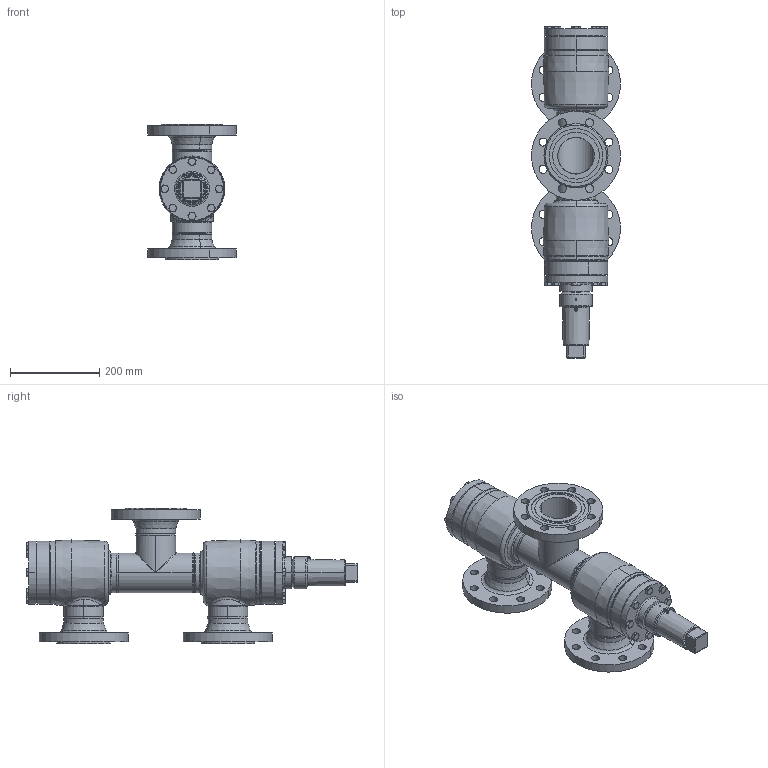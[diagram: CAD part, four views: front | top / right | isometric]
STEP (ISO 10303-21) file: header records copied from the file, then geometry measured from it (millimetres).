
FILE_DESCRIPTION (( 'STEP AP214' ), '1' );
FILE_NAME ('WVR24020D18-DN080_DIN-FL-N-F_PS40.STEP', '2010-09-08T09:01:10', ( 'Eckhard Grams' ), ( 'AWP Kälte Klima Armaturen GmbH' ), 'SwSTEP 2.0', 'SolidWorks 2002296', '' );
FILE_SCHEMA (( 'AUTOMOTIVE_DESIGN' ));
Length unit declared in the file: millimetre
Products named in the file (21): WVR24020D18-DN080_DIN-FL-N-F_PS40; WVB-R23000E18_Deck+Schr-DN80_Standard; Deckel23000E18-DN80_Standard; Kappe 16402-19_DN80-100 (M60x3)_Standard; Geh,kpl23020E18-DN080_DIN-FL-N-F_PS40_Standard; bead23020-18-3_Standard; bead23020-18-2_Standard; bead23020-18-1_Standard; Geh,kpl23000E18-DN080_R1_PS40_Standard; bead23000-18-2kopf_Standard; Kopfstück16300-DN080_Standard; bead23000-18-1kopf_Standard; bead23000-18-2_Standard; bead23000-18-1_Standard; Gehäuse23000E18-DN080_R1_PS40_Standard; T-Stück DIN2615_DN 80; Flansch-DIN2635-Nut_PS40_DIN-Flansch-DN080_PS40-Nut; Flansch-DIN2635-Feder_PS40_DIN-Flansch-DN080_PS40-Feder; AVR26300E18_Deck+Schr-DN80_Standard; Deckel26300E18-DN80_Standard; Sechskantschraube-DIN933_M10x 30
Assembly tree (38 placements, depth 4):
  WVR24020D18-DN080_DIN-FL-N-F_PS40
    Geh,kpl23020E18-DN080_DIN-FL-N-F_PS40_Standard
      Flansch-DIN2635-Feder_PS40_DIN-Flansch-DN080_PS40-Feder  x2
      bead23020-18-1_Standard
      Geh,kpl23000E18-DN080_R1_PS40_Standard
        bead23000-18-1_Standard
        Kopfstück16300-DN080_Standard  x2
        Gehäuse23000E18-DN080_R1_PS40_Standard  x2
        bead23000-18-2kopf_Standard
        T-Stück DIN2615_DN 80
        bead23000-18-1kopf_Standard
        bead23000-18-2_Standard
      bead23020-18-2_Standard
      bead23020-18-3_Standard
      Flansch-DIN2635-Nut_PS40_DIN-Flansch-DN080_PS40-Nut
    AVR26300E18_Deck+Schr-DN80_Standard
      Sechskantschraube-DIN933_M10x 30  x8
      Deckel26300E18-DN80_Standard
    WVB-R23000E18_Deck+Schr-DN80_Standard
      Sechskantschraube-DIN933_M10x 30  x8
      Deckel23000E18-DN80_Standard
    Kappe 16402-19_DN80-100 (M60x3)_Standard
Bounding box: 199.81 x 745.4 x 304 mm (x, y, z)
Volume: 5088128.9 mm3; surface area: 1013866.3 mm2
Topology: 34 solids, 34 shells, 867 faces, 1947 edges, 1170 vertices
Faces by surface type: cone 307, cylinder 258, plane 218, bspline 56, torus 28
Entity records: 39237 total; most frequent: CARTESIAN_POINT 28824, DIRECTION 1984, ORIENTED_EDGE 1882, EDGE_CURVE 941, AXIS2_PLACEMENT_3D 856, VERTEX_POINT 583, EDGE_LOOP 502, CIRCLE 461
